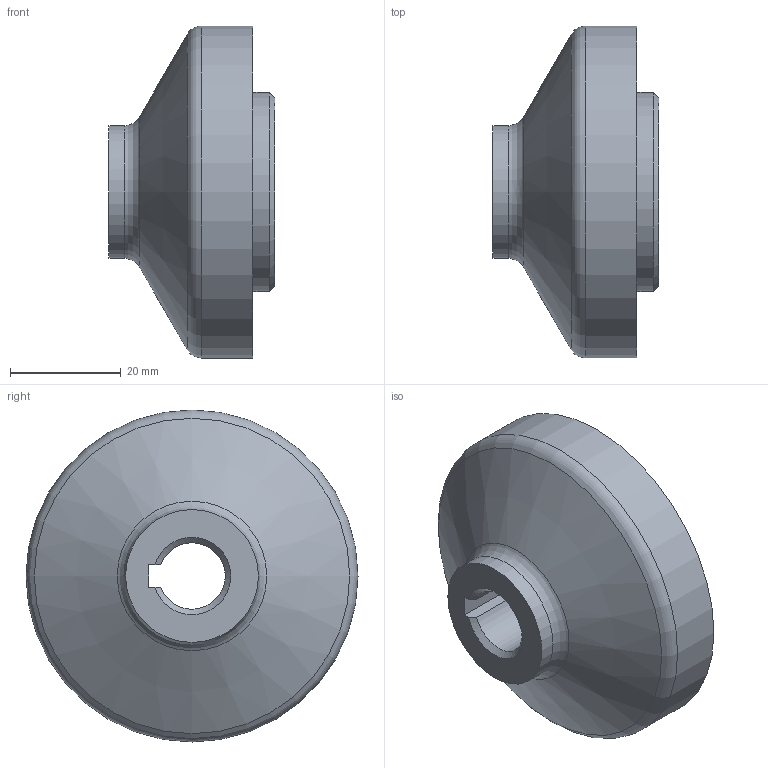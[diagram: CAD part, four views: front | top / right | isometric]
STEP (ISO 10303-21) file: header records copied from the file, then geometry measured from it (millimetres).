
FILE_DESCRIPTION(/* description */ (''),/* implementation_level */ '2;1');
FILE_NAME(/* name */ '',/* time_stamp */ '2026-03-26T11:10:59+09:00',/* author */ ('jhkim'),/* organization */ (''),/* preprocessor_version */ 'ST-DEVELOPER v20.1',/* originating_system */ 'Autodesk Inventor 2026',/* authorisation */ '');
FILE_SCHEMA (('AUTOMOTIVE_DESIGN { 1 0 10303 214 3 1 1 }'));
Length unit declared in the file: millimetre
Products named in the file (1): 플랜지
Bounding box: 30 x 60 x 60 mm (x, y, z)
Volume: 44568.2 mm3; surface area: 10375.7 mm2
Topology: 1 solids, 1 shells, 29 faces, 68 edges, 44 vertices
Faces by surface type: cylinder 10, cone 8, plane 8, torus 3
Full cylindrical faces by diameter (mm): 3.242 x4, 22 x1, 24 x1, 30 x1, 36 x1, 60 x1
Entity records: 868 total; most frequent: DIRECTION 155, CARTESIAN_POINT 146, ORIENTED_EDGE 128, AXIS2_PLACEMENT_3D 65, EDGE_CURVE 64, VERTEX_POINT 44, EDGE_LOOP 38, CIRCLE 35
